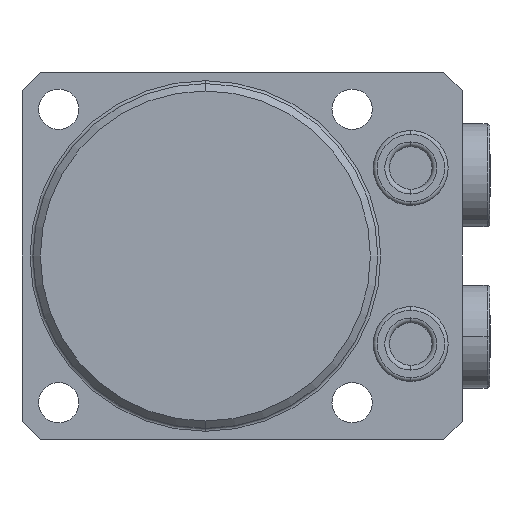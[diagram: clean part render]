
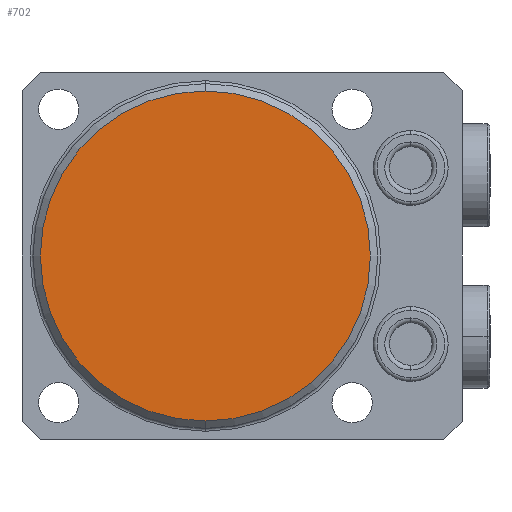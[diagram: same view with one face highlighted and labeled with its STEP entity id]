
A CAD part, front view. The second image highlights one B-rep face of the part: STEP entity #702.
In plain terms, the highlighted planar face has unit normal (0, -1, 0) as drawn and (0, 1, 0) by its records, which use the part's own axes.
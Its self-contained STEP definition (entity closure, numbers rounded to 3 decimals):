
#250=PLANE('',#4971);
#702=ADVANCED_FACE('',(#964),#250,.T.);
#964=FACE_OUTER_BOUND('',#1249,.F.);
#1249=EDGE_LOOP('',(#2898,#2899));
#2898=ORIENTED_EDGE('',*,*,#4138,.T.);
#2899=ORIENTED_EDGE('',*,*,#4046,.T.);
#3486=VERTEX_POINT('',#7625);
#3487=VERTEX_POINT('',#7626);
#4046=EDGE_CURVE('',#3486,#3487,#4450,.T.);
#4138=EDGE_CURVE('',#3487,#3486,#4469,.T.);
#4450=CIRCLE('',#4936,22.5);
#4469=CIRCLE('',#4970,22.5);
#4936=AXIS2_PLACEMENT_3D('',#7624,#6149,#6150);
#4970=AXIS2_PLACEMENT_3D('',#7887,#6265,#6266);
#4971=AXIS2_PLACEMENT_3D('',#7888,#6267,#6268);
#6149=DIRECTION('',(0.,-1.,0.));
#6150=DIRECTION('',(0.,0.,1.));
#6265=DIRECTION('',(0.,-1.,0.));
#6266=DIRECTION('',(0.,0.,1.));
#6267=DIRECTION('',(0.,1.,0.));
#6268=DIRECTION('',(0.,0.,1.));
#7624=CARTESIAN_POINT('',(0.,-39.5,0.));
#7625=CARTESIAN_POINT('',(0.,-39.5,-22.5));
#7626=CARTESIAN_POINT('',(0.,-39.5,22.5));
#7887=CARTESIAN_POINT('',(0.,-39.5,0.));
#7888=CARTESIAN_POINT('',(0.,-39.5,0.));
